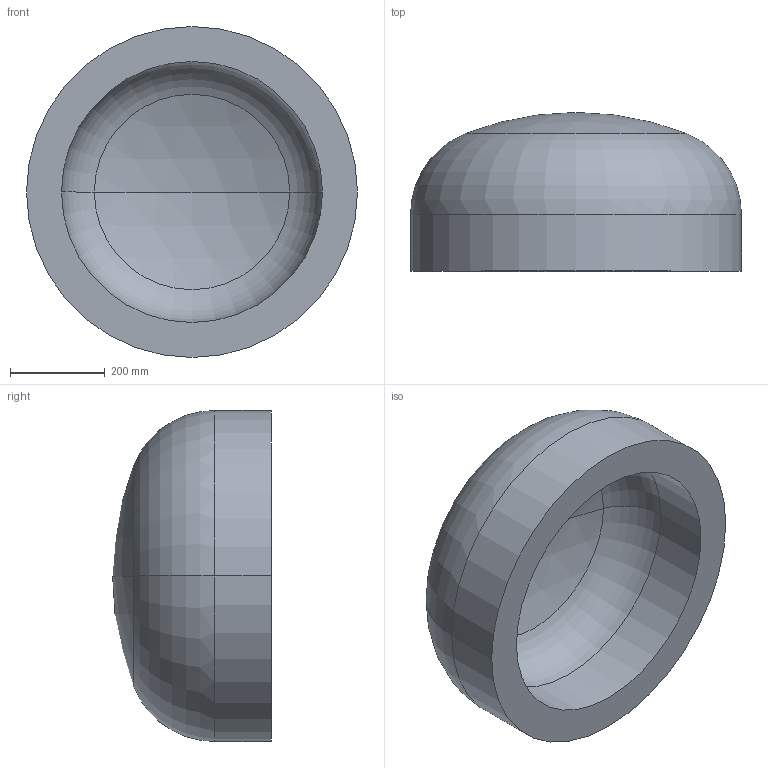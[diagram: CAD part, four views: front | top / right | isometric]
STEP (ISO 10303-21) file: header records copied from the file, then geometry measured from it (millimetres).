
FILE_DESCRIPTION (( 'STEP AP203' ), '1' );
FILE_NAME ('DIN 28013 Korbbogenform_-_Boden DIN 28013 - 700 x 120 - I - s=74.step', '2016-07-01T08:10:21', ( '' ), ( '' ), 'SwSTEP 2.0', 'SolidWorks 2013', '' );
FILE_SCHEMA (( 'CONFIG_CONTROL_DESIGN' ));
Length unit declared in the file: millimetre
Products named in the file (1): DIN 28013 Korbbogenform_-_Boden DIN 28013 - 700 x 120 - I - s=74
Bounding box: 700 x 335.74 x 700 mm (x, y, z)
Volume: 52237199 mm3; surface area: 1568816.1 mm2
Topology: 1 solids, 1 shells, 13 faces, 24 edges, 14 vertices
Faces by surface type: torus 4, cylinder 4, sphere 4, plane 1
Entity records: 407 total; most frequent: DIRECTION 72, CARTESIAN_POINT 52, ORIENTED_EDGE 48, AXIS2_PLACEMENT_3D 34, EDGE_CURVE 24, CIRCLE 20, EDGE_LOOP 14, VERTEX_POINT 14
